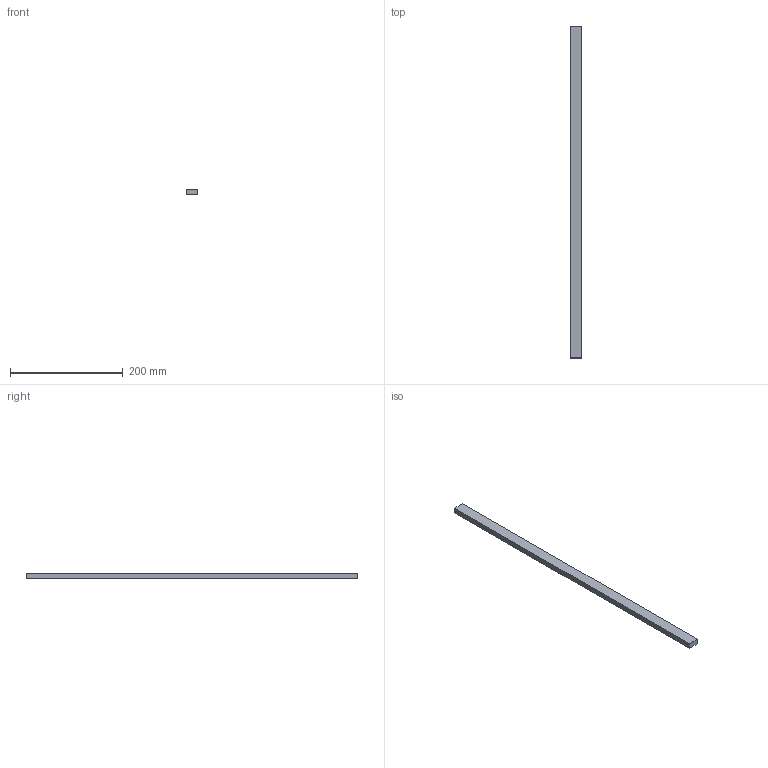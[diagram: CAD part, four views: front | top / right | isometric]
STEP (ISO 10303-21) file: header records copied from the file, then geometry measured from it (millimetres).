
FILE_DESCRIPTION (( 'STEP AP203' ), '1' );
FILE_NAME ('DN51392.STEP', '2025-10-31T07:36:02', ( '' ), ( '' ), 'SwSTEP 2.0', 'SolidWorks 2019', '' );
FILE_SCHEMA (( 'CONFIG_CONTROL_DESIGN' ));
Length unit declared in the file: millimetre
Products named in the file (1): DN51392
Bounding box: 20 x 590 x 10 mm (x, y, z)
Volume: 118000 mm3; surface area: 35800 mm2
Topology: 1 solids, 1 shells, 6 faces, 12 edges, 8 vertices
Faces by surface type: plane 6
Entity records: 233 total; most frequent: CARTESIAN_POINT 27, DIRECTION 26, ORIENTED_EDGE 24, EDGE_CURVE 12, LINE 12, VECTOR 12, PERSON_AND_ORGANIZATION 8, VERTEX_POINT 8
